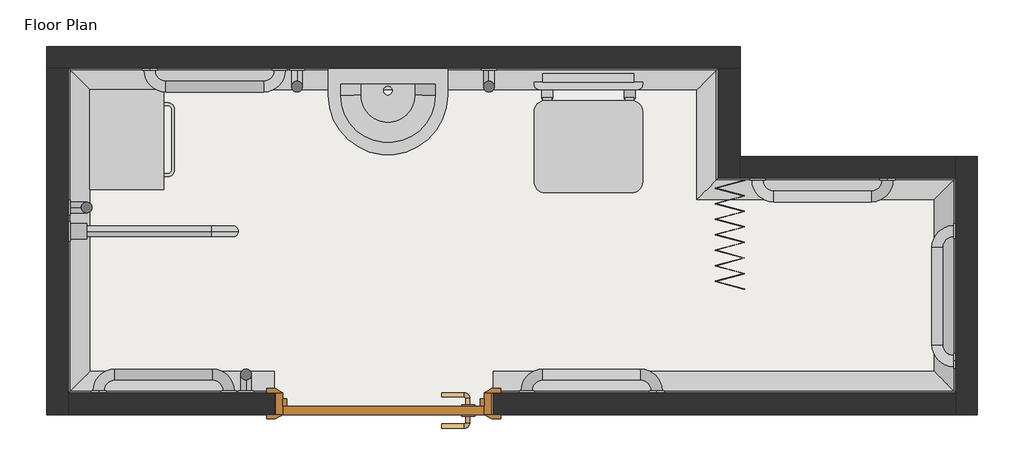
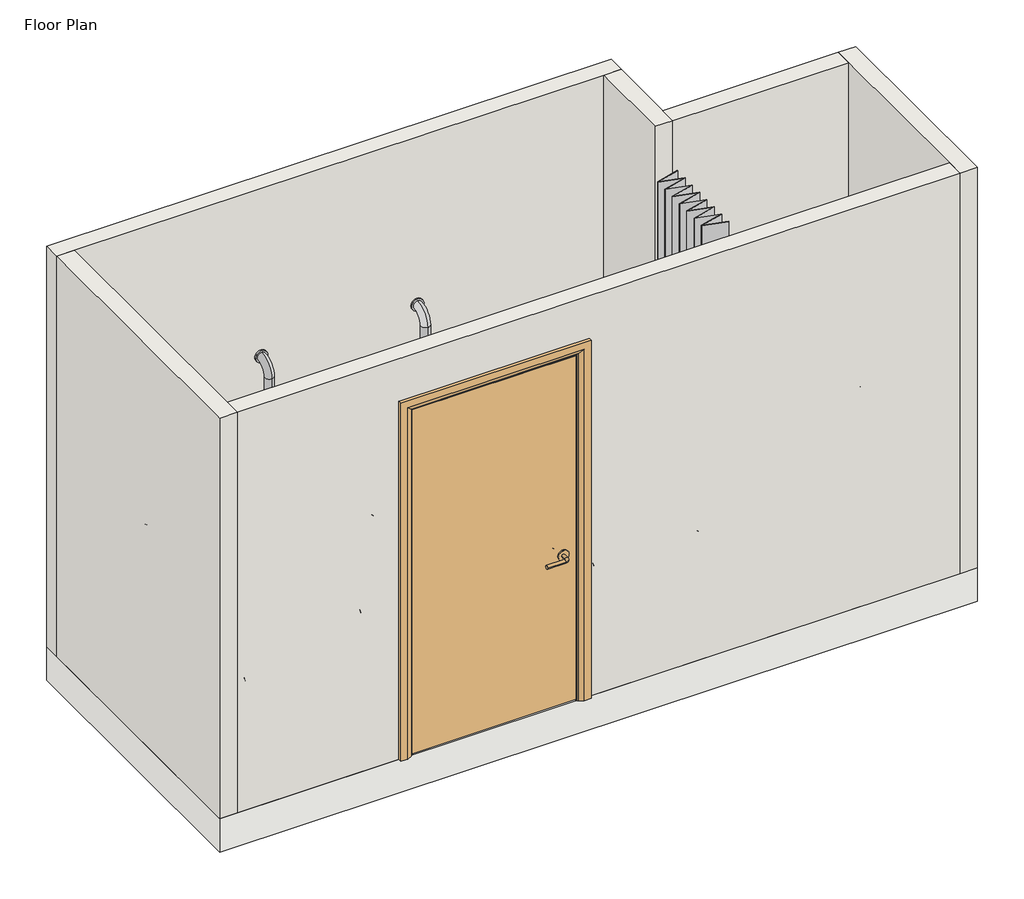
# One storey, incomplete: 17 proxies, 6 walls, 2 furniture elements, 1 door, 1 flow terminal, 1 slab.
"""IFC4 building model written with IfcOpenShell, lengths in millimetres."""

from ifc_helpers import new_model, si_unit, frame, origin, place, context, project, spatial, polyline, circle_curve, ellipse_curve, outline, extrude, faceted_brep, transform, mapped, element, save
from ifc_brep_helpers import plane_surface, revolved_surface, advanced_brep
from components import generic_models_2748bf89, type_1_021b8e3e, type_1_3e4eb001, type_1_f4c963d5, type_1_f76a5bbc, type_1_f275d547, door_1010x2110mm_f9eb5fde, flow_terminal_9bf15598, furniture_af9008cf, furniture_56c737e7

model = new_model("IFC4")

# Units and contexts
model_context = context("Model", 3, world=origin())
ifc_project = project(units=[si_unit("LENGTHUNIT", "METRE", prefix="MILLI")], contexts=[model_context])

# Site, building, storey
site = spatial("IfcSite", under=ifc_project)
building = spatial("IfcBuilding", under=site)
storey = spatial("IfcBuildingStorey", under=building, Name="Floor Plan", Elevation=0.0)

# Proxies
placement = place(None, origin())
element("IfcBuildingElementProxy", 1, Name="Wall Sweeps", at=placement, inside=storey, context=model_context, shape_type="AdvancedBrep", body=[
    advanced_brep(
    [(-495.0, 5415.0, 0.0), (-395.0, 5315.0, 0.0), (-395.0, 5315.0, 10.0), (-485.0, 5405.0, 100.0), (-495.0, 5415.0, 100.0), (2505.0, 5415.0, 0.0), (2505.0, 5415.0, 100.0), (2495.0, 5405.0, 100.0), (2405.0, 5315.0, 10.0), (2405.0, 5315.0, 0.0)],
    [
        (0, 1),
        (1, 2),
        (2, 3, ellipse_curve(frame((-395.0, 5315.0, 100.0), z_axis=(0.7071067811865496, 0.7071067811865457, 0.0), x_axis=(0.7071067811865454, -0.7071067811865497, 0.0)), 127.2792206, 90.0)),
        (3, 4),
        (4, 0),
        (5, 6),
        (6, 7),
        (7, 8, ellipse_curve(frame((2405.0, 5315.0, 100.0), z_axis=(-0.7071067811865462, 0.7071067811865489, 0.0), x_axis=(0.7071067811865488, 0.7071067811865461, 0.0)), 127.2792206, 90.0)),
        (8, 9),
        (9, 5),
        (0, 5),
        (9, 1),
        (8, 2),
        (7, 3),
        (6, 4),
    ],
    [
        plane_surface(frame((-495.0, 5415.0, 304.8), z_axis=(-0.7071067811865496, -0.7071067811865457, 0.0), x_axis=(0.7071067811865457, -0.7071067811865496, 0.0))),
        plane_surface(frame((2505.0, 5415.0, 304.8), z_axis=(0.7071067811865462, -0.7071067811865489, 0.0), x_axis=(-0.7071067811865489, -0.7071067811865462, 0.0))),
        plane_surface(frame((-495.0, 5415.0, 0.0), z_axis=(0.0, 0.0, -1.0), x_axis=(1.0, 0.0, 0.0))),
        plane_surface(frame((-395.0, 5315.0, 0.0), z_axis=(0.0, -1.0, 0.0), x_axis=(1.0, 0.0, 0.0))),
        revolved_surface(polyline([(2495.0, 5225.0, 100.0), (-485.0, 5225.0, 100.0)]), (-495.0, 5315.0, 100.0), (1.0, 0.0, 0.0)),
        plane_surface(frame((-485.0, 5405.0, 100.0), z_axis=(0.0, 0.0, 1.0), x_axis=(1.0, 0.0, 0.0))),
        plane_surface(frame((-495.0, 5415.0, 100.0), z_axis=(0.0, 1.0, 0.0), x_axis=(1.0, 0.0, 0.0))),
    ],
    [
        (0, [[1, 2, 3, 4, 5]]),
        (1, [[6, 7, 8, 9, 10]]),
        (2, [[-1, 11, -10, 12]]),
        (3, [[-2, -12, -9, 13]]),
        (4, [[-3, -13, -8, 14]]),
        (5, [[-4, -14, -7, 15]]),
        (6, [[-5, -15, -6, -11]]),
    ],
),
])
element("IfcBuildingElementProxy", 2, Name="Wall Sweeps", at=placement, inside=storey, context=model_context, shape_type="AdvancedBrep", body=[
    advanced_brep(
    [(-495.0, 5415.0, 0.0), (-495.0, 5415.0, 100.0), (-485.0, 5405.0, 100.0), (-395.0, 5315.0, 10.0), (-395.0, 5315.0, 0.0), (-495.0, 3915.0, 0.0), (-395.0, 4015.0, 0.0), (-395.0, 4015.0, 10.0), (-485.0, 3925.0, 100.0), (-495.0, 3915.0, 100.0)],
    [
        (0, 1),
        (1, 2),
        (2, 3, ellipse_curve(frame((-395.0, 5315.0, 100.0), z_axis=(-0.7071067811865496, -0.7071067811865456, 0.0), x_axis=(0.7071067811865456, -0.7071067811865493, 0.0)), 127.2792206, 90.0)),
        (3, 4),
        (4, 0),
        (5, 6),
        (6, 7),
        (7, 8, ellipse_curve(frame((-395.0, 4015.0, 100.0), z_axis=(-0.707106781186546, 0.7071067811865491, 0.0), x_axis=(-0.7071067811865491, -0.7071067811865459, 0.0)), 127.2792206, 90.0)),
        (8, 9),
        (9, 5),
        (0, 5),
        (9, 1),
        (8, 2),
        (7, 3),
        (6, 4),
    ],
    [
        plane_surface(frame((-495.0, 5415.0, -304.8), z_axis=(0.7071067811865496, 0.7071067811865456, 0.0), x_axis=(0.7071067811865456, -0.7071067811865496, 0.0))),
        plane_surface(frame((-495.0, 3915.0, -304.8), z_axis=(0.707106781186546, -0.7071067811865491, 0.0), x_axis=(0.7071067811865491, 0.707106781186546, 0.0))),
        plane_surface(frame((-495.0, 5415.0, 0.0), z_axis=(-1.0, 0.0, 0.0), x_axis=(0.0, -1.0, 0.0))),
        plane_surface(frame((-495.0, 5415.0, 100.0), z_axis=(0.0, 0.0, 1.0), x_axis=(0.0, -1.0, 0.0))),
        revolved_surface(polyline([(-305.0, 3925.0, 100.0), (-305.0, 5405.0, 100.0)]), (-395.0, 5415.0, 100.0), (0.0, -1.0, 0.0)),
        plane_surface(frame((-395.0, 5315.0, 10.0), z_axis=(1.0, 0.0, 0.0), x_axis=(0.0, -1.0, 0.0))),
        plane_surface(frame((-395.0, 5315.0, 0.0), z_axis=(0.0, 0.0, -1.0), x_axis=(0.0, -1.0, 0.0))),
    ],
    [
        (0, [[1, 2, 3, 4, 5]]),
        (1, [[6, 7, 8, 9, 10]]),
        (2, [[-1, 11, -10, 12]]),
        (3, [[-2, -12, -9, 13]]),
        (4, [[-3, -13, -8, 14]]),
        (5, [[-4, -14, -7, 15]]),
        (6, [[-5, -15, -6, -11]]),
    ],
),
])
element("IfcBuildingElementProxy", 3, Name="Wall Sweeps", at=placement, inside=storey, context=model_context, shape_type="AdvancedBrep", body=[
    advanced_brep(
    [(1465.0, 3915.0, 0.0), (1465.0, 3915.0, 100.0), (1465.0, 3925.0, 100.0), (1465.0, 4015.0, 10.0), (1465.0, 4015.0, 0.0), (3600.0, 3915.0, 0.0), (3500.0, 4015.0, 0.0), (3500.0, 4015.0, 10.0), (3590.0, 3925.0, 100.0), (3600.0, 3915.0, 100.0)],
    [
        (0, 1),
        (1, 2),
        (2, 3, circle_curve(frame((1465.0, 4015.0, 100.0), z_axis=(1.0, 0.0, 0.0), x_axis=(0.0, 1.0, 0.0)), 90.0)),
        (3, 4),
        (4, 0),
        (5, 6),
        (6, 7),
        (7, 8, ellipse_curve(frame((3500.0, 4015.0, 100.0), z_axis=(-0.7071067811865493, -0.7071067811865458, 0.0), x_axis=(0.7071067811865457, -0.7071067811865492, 0.0)), 127.2792206, 90.0)),
        (8, 9),
        (9, 5),
        (0, 5),
        (9, 1),
        (8, 2),
        (7, 3),
        (6, 4),
    ],
    [
        plane_surface(frame((1465.0, 3915.0, -100.4987562), z_axis=(-1.0, 0.0, 0.0), x_axis=(0.0, 1.0, 0.0))),
        plane_surface(frame((3600.0, 3915.0, -304.8), z_axis=(0.7071067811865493, 0.7071067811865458, 0.0), x_axis=(-0.7071067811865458, 0.7071067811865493, 0.0))),
        plane_surface(frame((1465.0, 3915.0, 0.0), z_axis=(0.0, -1.0, 0.0), x_axis=(1.0, 0.0, 0.0))),
        plane_surface(frame((1465.0, 3915.0, 100.0), z_axis=(0.0, 0.0, 1.0), x_axis=(1.0, 0.0, 0.0))),
        revolved_surface(polyline([(3590.0, 4105.0, 100.0), (1465.0, 4105.0, 100.0)]), (1465.0, 4015.0, 100.0), (1.0, 0.0, 0.0)),
        plane_surface(frame((1465.0, 4015.0, 10.0), z_axis=(0.0, 1.0, 0.0), x_axis=(1.0, 0.0, 0.0))),
        plane_surface(frame((1465.0, 4015.0, 0.0), z_axis=(0.0, 0.0, -1.0), x_axis=(1.0, 0.0, 0.0))),
    ],
    [
        (0, [[1, 2, 3, 4, 5]]),
        (1, [[6, 7, 8, 9, 10]]),
        (2, [[-1, 11, -10, 12]]),
        (3, [[-2, -12, -9, 13]]),
        (4, [[-3, -13, -8, 14]]),
        (5, [[-4, -14, -7, 15]]),
        (6, [[-5, -15, -6, -11]]),
    ],
),
    advanced_brep(
    [(-495.0, 3915.0, 0.0), (-495.0, 3915.0, 100.0), (-485.0, 3925.0, 100.0), (-395.0, 4015.0, 10.0), (-395.0, 4015.0, 0.0), (455.0, 3915.0, 0.0), (455.0, 4015.0, 0.0), (455.0, 4015.0, 10.0), (455.0, 3925.0, 100.0), (455.0, 3915.0, 100.0)],
    [
        (0, 1),
        (1, 2),
        (2, 3, ellipse_curve(frame((-395.0, 4015.0, 100.0), z_axis=(0.7071067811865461, -0.7071067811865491, 0.0), x_axis=(0.7071067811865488, 0.7071067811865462, 0.0)), 127.2792206, 90.0)),
        (3, 4),
        (4, 0),
        (5, 6),
        (6, 7),
        (7, 8, circle_curve(frame((455.0, 4015.0, 100.0), z_axis=(-1.0, 0.0, 0.0), x_axis=(0.0, 1.0, 0.0)), 90.0)),
        (8, 9),
        (9, 5),
        (0, 5),
        (9, 1),
        (8, 2),
        (7, 3),
        (6, 4),
    ],
    [
        plane_surface(frame((-495.0, 3915.0, -304.8), z_axis=(-0.7071067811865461, 0.7071067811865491, 0.0), x_axis=(0.7071067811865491, 0.7071067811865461, 0.0))),
        plane_surface(frame((455.0, 3915.0, -100.4987562), z_axis=(1.0, 0.0, 0.0), x_axis=(0.0, 1.0, 0.0))),
        plane_surface(frame((-495.0, 3915.0, 0.0), z_axis=(0.0, -1.0, 0.0), x_axis=(1.0, 0.0, 0.0))),
        plane_surface(frame((-495.0, 3915.0, 100.0), z_axis=(0.0, 0.0, 1.0), x_axis=(1.0, 0.0, 0.0))),
        revolved_surface(polyline([(455.0, 4105.0, 100.0), (-485.0, 4105.0, 100.0)]), (-495.0, 4015.0, 100.0), (1.0, 0.0, 0.0)),
        plane_surface(frame((-395.0, 4015.0, 10.0), z_axis=(0.0, 1.0, 0.0), x_axis=(1.0, 0.0, 0.0))),
        plane_surface(frame((-395.0, 4015.0, 0.0), z_axis=(0.0, 0.0, -1.0), x_axis=(1.0, 0.0, 0.0))),
    ],
    [
        (0, [[1, 2, 3, 4, 5]]),
        (1, [[6, 7, 8, 9, 10]]),
        (2, [[-1, 11, -10, 12]]),
        (3, [[-2, -12, -9, 13]]),
        (4, [[-3, -13, -8, 14]]),
        (5, [[-4, -14, -7, 15]]),
        (6, [[-5, -15, -6, -11]]),
    ],
),
])
element("IfcBuildingElementProxy", 4, Name="Wall Sweeps", at=placement, inside=storey, context=model_context, shape_type="AdvancedBrep", body=[
    advanced_brep(
    [(2505.0, 5415.0, 0.0), (2405.0, 5315.0, 0.0), (2405.0, 5315.0, 10.0), (2495.0, 5405.0, 100.0), (2505.0, 5415.0, 100.0), (2505.0, 4907.5, 0.0), (2505.0, 4907.5, 100.0), (2495.0, 4897.5, 100.0), (2405.0, 4807.5, 10.0), (2405.0, 4807.5, 0.0)],
    [
        (0, 1),
        (1, 2),
        (2, 3, ellipse_curve(frame((2405.0, 5315.0, 100.0), z_axis=(0.7071067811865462, -0.7071067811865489, 0.0), x_axis=(-0.7071067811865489, -0.707106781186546, 0.0)), 127.2792206, 90.0)),
        (3, 4),
        (4, 0),
        (5, 6),
        (6, 7),
        (7, 8, ellipse_curve(frame((2405.0, 4807.5, 100.0), z_axis=(-0.7071067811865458, 0.7071067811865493, 0.0), x_axis=(-0.7071067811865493, -0.7071067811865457, 0.0)), 127.2792206, 90.0)),
        (8, 9),
        (9, 5),
        (4, 6),
        (5, 0),
        (3, 7),
        (2, 8),
        (1, 9),
    ],
    [
        plane_surface(frame((2505.0, 5415.0, 304.8), z_axis=(-0.7071067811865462, 0.7071067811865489, 0.0), x_axis=(-0.7071067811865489, -0.7071067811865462, 0.0))),
        plane_surface(frame((2505.0, 4907.5, -304.8), z_axis=(0.7071067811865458, -0.7071067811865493, 0.0), x_axis=(0.7071067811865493, 0.7071067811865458, 0.0))),
        plane_surface(frame((2505.0, 5415.0, 100.0), z_axis=(1.0, 0.0, 0.0), x_axis=(0.0, -1.0, 0.0))),
        plane_surface(frame((2495.0, 5405.0, 100.0), z_axis=(0.0, 0.0, 1.0), x_axis=(0.0, -1.0, 0.0))),
        revolved_surface(polyline([(2315.0, 4717.5000000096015, 100.0), (2315.0, 5405.0, 100.0)]), (2405.0, 5415.0, 100.0), (0.0, -1.0, 0.0)),
        plane_surface(frame((2405.0, 5315.0, 0.0), z_axis=(-1.0, 0.0, 0.0), x_axis=(0.0, -1.0, 0.0))),
        plane_surface(frame((2505.0, 5415.0, 0.0), z_axis=(0.0, 0.0, -1.0), x_axis=(0.0, -1.0, 0.0))),
    ],
    [
        (0, [[1, 2, 3, 4, 5]]),
        (1, [[6, 7, 8, 9, 10]]),
        (2, [[-5, 11, -6, 12]]),
        (3, [[-4, 13, -7, -11]]),
        (4, [[-3, 14, -8, -13]]),
        (5, [[-2, 15, -9, -14]]),
        (6, [[-1, -12, -10, -15]]),
    ],
),
])
element("IfcBuildingElementProxy", 5, Name="Wall Sweeps", at=placement, inside=storey, context=model_context, shape_type="AdvancedBrep", body=[
    advanced_brep(
    [(3600.0, 3915.0, 0.0), (3600.0, 3915.0, 100.0), (3590.0, 3925.0, 100.0), (3500.0, 4015.0, 10.0), (3500.0, 4015.0, 0.0), (3600.0, 4907.5, 0.0), (3500.0, 4807.5, 0.0), (3500.0, 4807.5, 10.0), (3590.0, 4897.5, 100.0), (3600.0, 4907.5, 100.0)],
    [
        (0, 1),
        (1, 2),
        (2, 3, ellipse_curve(frame((3500.0, 4015.0, 100.0), z_axis=(0.7071067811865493, 0.7071067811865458, 0.0), x_axis=(-0.7071067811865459, 0.7071067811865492, 0.0)), 127.2792206, 90.0)),
        (3, 4),
        (4, 0),
        (5, 6),
        (6, 7),
        (7, 8, ellipse_curve(frame((3500.0, 4807.5, 100.0), z_axis=(0.7071067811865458, -0.7071067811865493, 0.0), x_axis=(0.7071067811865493, 0.7071067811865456, 0.0)), 127.2792206, 90.0)),
        (8, 9),
        (9, 5),
        (4, 6),
        (5, 0),
        (3, 7),
        (2, 8),
        (1, 9),
    ],
    [
        plane_surface(frame((3600.0, 3915.0, -304.8), z_axis=(-0.7071067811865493, -0.7071067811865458, 0.0), x_axis=(-0.7071067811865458, 0.7071067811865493, 0.0))),
        plane_surface(frame((3600.0, 4907.5, -304.8), z_axis=(-0.7071067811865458, 0.7071067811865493, 0.0), x_axis=(-0.7071067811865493, -0.7071067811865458, 0.0))),
        plane_surface(frame((3500.0, 4015.0, 0.0), z_axis=(0.0, 0.0, -1.0), x_axis=(0.0, 1.0, 0.0))),
        plane_surface(frame((3500.0, 4015.0, 10.0), z_axis=(-1.0, 0.0, 0.0), x_axis=(0.0, 1.0, 0.0))),
        revolved_surface(polyline([(3410.0, 4897.5, 100.0), (3410.0, 3925.0, 100.0)]), (3500.0, 3915.0, 100.0), (0.0, 1.0, 0.0)),
        plane_surface(frame((3600.0, 3915.0, 100.0), z_axis=(0.0, 0.0, 1.0), x_axis=(0.0, 1.0, 0.0))),
        plane_surface(frame((3600.0, 3915.0, 0.0), z_axis=(1.0, 0.0, 0.0), x_axis=(0.0, 1.0, 0.0))),
    ],
    [
        (0, [[1, 2, 3, 4, 5]]),
        (1, [[6, 7, 8, 9, 10]]),
        (2, [[-5, 11, -6, 12]]),
        (3, [[-4, 13, -7, -11]]),
        (4, [[-3, 14, -8, -13]]),
        (5, [[-2, 15, -9, -14]]),
        (6, [[-1, -12, -10, -15]]),
    ],
),
])
element("IfcBuildingElementProxy", 6, Name="Wall Sweeps", at=placement, inside=storey, context=model_context, shape_type="AdvancedBrep", body=[
    advanced_brep(
    [(2505.0, 4907.5, 0.0), (2405.0, 4807.5, 0.0), (2405.0, 4807.5, 10.0), (2495.0, 4897.5, 100.0), (2505.0, 4907.5, 100.0), (3600.0, 4907.5, 0.0), (3600.0, 4907.5, 100.0), (3590.0, 4897.5, 100.0), (3500.0, 4807.5, 10.0), (3500.0, 4807.5, 0.0), (2605.0, 4907.5, 0.0)],
    [
        (0, 1),
        (1, 2),
        (2, 3, ellipse_curve(frame((2405.0, 4807.5, 100.0), z_axis=(0.7071067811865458, -0.7071067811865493, 0.0), x_axis=(0.7071067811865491, 0.7071067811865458, 0.0)), 127.2792206, 90.0)),
        (3, 4),
        (4, 0),
        (5, 6),
        (6, 7),
        (7, 8, ellipse_curve(frame((3500.0, 4807.5, 100.0), z_axis=(-0.7071067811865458, 0.7071067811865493, 0.0), x_axis=(0.7071067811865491, 0.7071067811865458, 0.0)), 127.2792206, 90.0)),
        (8, 9),
        (9, 5),
        (4, 6),
        (5, 10),
        (10, 0),
        (3, 7),
        (2, 8),
        (1, 9),
    ],
    [
        plane_surface(frame((2505.0, 4907.5, -304.8), z_axis=(-0.7071067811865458, 0.7071067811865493, 0.0), x_axis=(0.7071067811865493, 0.7071067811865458, 0.0))),
        plane_surface(frame((3600.0, 4907.5, 304.8), z_axis=(0.7071067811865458, -0.7071067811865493, 0.0), x_axis=(-0.7071067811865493, -0.7071067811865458, 0.0))),
        plane_surface(frame((2505.0, 4907.5, 100.0), z_axis=(0.0, 1.0, 0.0), x_axis=(1.0, 0.0, 0.0))),
        plane_surface(frame((2495.0, 4897.5, 100.0), z_axis=(0.0, 0.0, 1.0), x_axis=(1.0, 0.0, 0.0))),
        revolved_surface(polyline([(3590.0, 4717.5, 100.0), (2315.000000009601, 4717.5, 100.0)]), (2505.0, 4807.5, 100.0), (1.0, 0.0, 0.0)),
        plane_surface(frame((2405.0, 4807.5, 0.0), z_axis=(0.0, -1.0, 0.0), x_axis=(1.0, 0.0, 0.0))),
        plane_surface(frame((2505.0, 4907.5, 0.0), z_axis=(0.0, 0.0, -1.0), x_axis=(1.0, 0.0, 0.0))),
    ],
    [
        (0, [[1, 2, 3, 4, 5]]),
        (1, [[6, 7, 8, 9, 10]]),
        (2, [[-5, 11, -6, 12, 13]]),
        (3, [[-4, 14, -7, -11]]),
        (4, [[-3, 15, -8, -14]]),
        (5, [[-2, 16, -9, -15]]),
        (6, [[-1, -13, -12, -10, -16]]),
    ],
),
])
generic_models_shape = generic_models_2748bf89(model_context)
element("IfcBuildingElementProxy", 7, Name="BIMHealth-Seat_Shower-LOD2A-v1 : BIMHealth-Seat_Shower-LOD2A-v1", ObjectType="BIMHealth-Seat_Shower-LOD2A-v1 : BIMHealth-Seat_Shower-LOD2A-v1", at=placement, inside=storey, context=model_context, shape_type="MappedRepresentation", body=[
    mapped(generic_models_shape, transform((1655.0, 5390.0, 0.0), x_axis=(1.0, 0.0, 0.0), y_axis=(0.0, 1.0, 0.0), z_axis=(0.0, 0.0, 1.0))),
])
type_1_shape = type_1_021b8e3e(model_context)
element("IfcBuildingElementProxy", 8, Name="BIMHealth-Grab_Rail_Horizontal-LOD2A-v1 : Type 1", ObjectType="BIMHealth-Grab_Rail_Horizontal-LOD2A-v1 : Type 1", at=placement, inside=storey, context=model_context, shape_type="MappedRepresentation", body=[
    mapped(type_1_shape, transform((-179.5081461, 3865.0, 0.0), x_axis=(1.0, 0.0, 0.0), y_axis=(0.0, 1.0, 0.0), z_axis=(0.0, 0.0, 1.0))),
])
element("IfcBuildingElementProxy", 9, Name="BIMHealth-Grab_Rail_Horizontal-LOD2A-v1 : Type 1", ObjectType="BIMHealth-Grab_Rail_Horizontal-LOD2A-v1 : Type 1", at=placement, inside=storey, context=model_context, shape_type="MappedRepresentation", body=[
    mapped(type_1_shape, transform((3650.0, 4237.5, 0.0), x_axis=(0.0, 1.0, 0.0), y_axis=(-1.0, 0.0, 0.0), z_axis=(0.0, 0.0, 1.0))),
])
element("IfcBuildingElementProxy", 10, Name="BIMHealth-Grab_Rail_Horizontal-LOD2A-v1 : Type 1", ObjectType="BIMHealth-Grab_Rail_Horizontal-LOD2A-v1 : Type 1", at=placement, inside=storey, context=model_context, shape_type="MappedRepresentation", body=[
    mapped(type_1_shape, transform((3110.0, 4957.5, 0.0), x_axis=(-1.0, 0.0, 0.0), y_axis=(0.0, -1.0, 0.0), z_axis=(0.0, 0.0, 1.0))),
])
type_1_2_shape = type_1_3e4eb001(model_context)
element("IfcBuildingElementProxy", 11, Name="BIMHealth-Grab_Rail_Vertical-LOD2A-v1 : Type 1", ObjectType="BIMHealth-Grab_Rail_Vertical-LOD2A-v1 : Type 1", at=placement, inside=storey, context=model_context, shape_type="MappedRepresentation", body=[
    mapped(type_1_2_shape, transform((686.0, 5465.0, 0.0), x_axis=(-1.0, 0.0, 0.0), y_axis=(0.0, -1.0, 0.0), z_axis=(0.0, 0.0, 1.0))),
])
type_1_3_shape = type_1_f4c963d5(model_context)
element("IfcBuildingElementProxy", 12, Name="BIMHealth-Grab_Rail_Vertical-LOD2A-v1 : Type 1", ObjectType="BIMHealth-Grab_Rail_Vertical-LOD2A-v1 : Type 1", at=placement, inside=storey, context=model_context, shape_type="MappedRepresentation", body=[
    mapped(type_1_3_shape, transform((1321.0, 5465.0, 0.0), x_axis=(1.0, 0.0, 0.0), y_axis=(0.0, 1.0, 0.0), z_axis=(0.0, 0.0, 1.0))),
])
element("IfcBuildingElementProxy", 13, Name="BIMHealth-Grab_Rail_Vertical-LOD2A-v1 : Type 1", ObjectType="BIMHealth-Grab_Rail_Vertical-LOD2A-v1 : Type 1", at=placement, inside=storey, context=model_context, shape_type="MappedRepresentation", body=[
    mapped(type_1_3_shape, transform((-545.0, 4646.4553371, 0.0), x_axis=(0.0, 1.0, 0.0), y_axis=(-1.0, 0.0, 0.0), z_axis=(0.0, 0.0, 1.0))),
])
element("IfcBuildingElementProxy", 14, Name="BIMHealth-Grab_Rail_Vertical-LOD2A-v1 : Type 1", ObjectType="BIMHealth-Grab_Rail_Vertical-LOD2A-v1 : Type 1", at=placement, inside=storey, context=model_context, shape_type="MappedRepresentation", body=[
    mapped(type_1_3_shape, transform((450.4918539, 3865.0, 0.0), x_axis=(-1.0, 0.0, 0.0), y_axis=(0.0, -1.0, 0.0), z_axis=(0.0, 0.0, 1.0))),
])
type_1_4_shape = type_1_f76a5bbc(model_context)
element("IfcBuildingElementProxy", 15, Name="BIMHealth-Grab_Rail_Horizontal-LOD2A-v1 : Type 1", ObjectType="BIMHealth-Grab_Rail_Horizontal-LOD2A-v1 : Type 1", at=placement, inside=storey, context=model_context, shape_type="MappedRepresentation", body=[
    mapped(type_1_4_shape, transform((56.0, 5465.0, 0.0), x_axis=(1.0, 0.0, 0.0), y_axis=(0.0, 1.0, 0.0), z_axis=(0.0, 0.0, 1.0))),
])
element("IfcBuildingElementProxy", 16, Name="BIMHealth-Grab_Rail_Horizontal-LOD2A-v1 : Type 1", ObjectType="BIMHealth-Grab_Rail_Horizontal-LOD2A-v1 : Type 1", at=placement, inside=storey, context=model_context, shape_type="MappedRepresentation", body=[
    mapped(type_1_4_shape, transform((2045.0, 3865.0, 0.0), x_axis=(-1.0, 0.0, 0.0), y_axis=(0.0, -1.0, 0.0), z_axis=(0.0, 0.0, 1.0))),
])
type_1_5_shape = type_1_f275d547(model_context)
element("IfcBuildingElementProxy", 17, Name="BIMHealth-Grab_Rail_Drop_Down-LOD2A-v1 : Type 1", ObjectType="BIMHealth-Grab_Rail_Drop_Down-LOD2A-v1 : Type 1", at=placement, inside=storey, context=model_context, shape_type="MappedRepresentation", body=[
    mapped(type_1_5_shape, transform((-545.0, 4536.4553371, 0.0), x_axis=(0.0, 1.0, 0.0), y_axis=(-1.0, 0.0, 0.0), z_axis=(0.0, 0.0, 1.0))),
])

# Door
door_1010x2110mm_shape = door_1010x2110mm_f9eb5fde(model_context)
element("IfcDoor", 18, ObjectType="BIMHealth-Single_Door-LOD2A-v1 : 1010x2110mm", at=placement, inside=storey, context=model_context, shape_type="MappedRepresentation", body=[
    mapped(door_1010x2110mm_shape, transform((960.0, 3865.0, 0.0), x_axis=(-1.0, 0.0, 0.0), y_axis=(0.0, -1.0, 0.0), z_axis=(0.0, 0.0, 1.0))),
])

# Flow terminal
flow_terminal_shape = flow_terminal_9bf15598(model_context)
element("IfcFlowTerminal", 19, ObjectType="BIMHealth-Wash_basin_Doc_M-LOD2A-v1 : BIMHealth-Wash_basin_Doc_M-LOD2A-v1", at=placement, inside=storey, context=model_context, shape_type="MappedRepresentation", body=[
    mapped(flow_terminal_shape, transform((1255.0, 5415.0, 500.0), x_axis=(-1.0000000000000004, 0.0, 0.0), y_axis=(0.0, -1.0000000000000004, 0.0), z_axis=(0.0, 0.0, 1.0))),
])

# Furniture
furniture_shape = furniture_af9008cf(model_context)
element("IfcFurniture", 20, ObjectType="BIMHealth-Bin_Clinical_Foot_Operated-LOD2A-v1 : BIMHealth-Bin_Clinical_Foot_Operated-LOD2A-v1", at=placement, inside=storey, context=model_context, shape_type="MappedRepresentation", body=[
    mapped(furniture_shape, transform((-385.0, 5305.0, 0.0), x_axis=(0.0, -1.0000000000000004, 0.0), y_axis=(1.0000000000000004, 0.0, 0.0), z_axis=(0.0, 0.0, 1.0))),
])
furniture_2_shape = furniture_56c737e7(model_context)
element("IfcFurniture", 21, ObjectType="BHMS-Bed Curtains : Bed Curtains", at=placement, inside=storey, context=model_context, shape_type="MappedRepresentation", body=[
    mapped(furniture_2_shape, transform((2565.0, 4647.5, 0.0), x_axis=(0.0, 1.0, 0.0), y_axis=(-1.0, 0.0, 0.0), z_axis=(0.0, 0.0, 1.0))),
])

# Slab
element("IfcSlab", 22, ObjectType="BIMHealth - Generic Floor", at=placement, inside=storey, context=model_context, shape_type="SweptSolid", body=[
    extrude(outline(polyline([(2605.0, 5515.0), (2605.0, 5007.5), (3700.0, 5007.5), (3700.0, 3815.0), (-595.0, 3815.0), (-595.0, 5515.0), (2605.0, 5515.0)])), frame((0.0, 0.0, -200.0), z_axis=(0.0, 0.0, 1.0), x_axis=(1.0, 0.0, 0.0)), (0.0, 0.0, 1.0), 200.0),
])

# Walls
element("IfcWall", 23, ObjectType="BIMHealth - Generic Wall", at=placement, inside=storey, context=model_context, shape_type="Brep", body=[
    faceted_brep([(3700.0, 3815.0, 0.0), (3700.0, 5007.5, 0.0), (3700.0, 5007.5, 2400.0), (3700.0, 3815.0, 2400.0), (3600.0, 3815.0, 0.0), (3600.0, 3815.0, 2400.0), (3600.0, 3915.0, 2400.0), (3600.0, 4907.5, 2400.0), (3600.0, 5007.5, 2400.0), (3600.0, 5007.5, 0.0), (3600.0, 4907.5, 0.0), (3600.0, 3915.0, 0.0)], [[[0, 1, 2, 3]], [[4, 5, 6, 7, 8, 9, 10, 11]], [[1, 0, 4, 11, 10, 9]], [[3, 2, 8, 7, 6, 5]], [[2, 1, 9, 8]], [[0, 3, 5, 4]]]),
])
element("IfcWall", 24, ObjectType="BIMHealth - Generic Wall", at=placement, inside=storey, context=model_context, shape_type="Brep", body=[
    faceted_brep([(-595.0, 5415.0, 0.0), (-495.0, 5415.0, 0.0), (2505.0, 5415.0, 0.0), (2605.0, 5415.0, 0.0), (2605.0, 5415.0, 2400.0), (2505.0, 5415.0, 2400.0), (-495.0, 5415.0, 2400.0), (-595.0, 5415.0, 2400.0), (-595.0, 5515.0, 0.0), (-595.0, 5515.0, 2400.0), (2605.0, 5515.0, 2400.0), (2605.0, 5515.0, 0.0)], [[[0, 1, 2, 3, 4, 5, 6, 7]], [[8, 9, 10, 11]], [[3, 2, 1, 0, 8, 11]], [[7, 6, 5, 4, 10, 9]], [[0, 7, 9, 8]], [[4, 3, 11, 10]]]),
])
element("IfcWall", 25, ObjectType="BIMHealth - Generic Wall", at=placement, inside=storey, context=model_context, shape_type="Brep", body=[
    faceted_brep([(-595.0, 5415.0, 0.0), (-595.0, 3815.0, 0.0), (-595.0, 3815.0, 2400.0), (-595.0, 5415.0, 2400.0), (-495.0, 5415.0, 0.0), (-495.0, 5415.0, 2400.0), (-495.0, 3915.0, 2400.0), (-495.0, 3815.0, 2400.0), (-495.0, 3815.0, 0.0), (-495.0, 3915.0, 0.0)], [[[0, 1, 2, 3]], [[4, 5, 6, 7, 8, 9]], [[1, 0, 4, 9, 8]], [[3, 2, 7, 6, 5]], [[0, 3, 5, 4]], [[2, 1, 8, 7]]]),
])
element("IfcWall", 26, ObjectType="BIMHealth - Generic Wall", at=placement, inside=storey, context=model_context, shape_type="Brep", body=[
    faceted_brep([(3600.0, 3815.0, 2400.0), (-495.0, 3815.0, 2400.0), (-495.0, 3815.0, 0.0), (455.0, 3815.0, 0.0), (455.0, 3815.0, 2110.0), (1465.0, 3815.0, 2110.0), (1465.0, 3815.0, 0.0), (3600.0, 3815.0, 0.0), (-495.0, 3915.0, 2400.0), (3600.0, 3915.0, 2400.0), (3600.0, 3915.0, 0.0), (1465.0, 3915.0, 0.0), (1465.0, 3915.0, 100.0), (1465.0, 3915.0, 2110.0), (455.0, 3915.0, 2110.0), (455.0, 3915.0, 100.0), (455.0, 3915.0, 0.0), (-495.0, 3915.0, 0.0)], [[[0, 1, 2, 3, 4, 5, 6, 7]], [[8, 9, 10, 11, 12, 13, 14, 15, 16, 17]], [[2, 17, 16, 3]], [[10, 7, 6, 11]], [[1, 0, 9, 8]], [[2, 1, 8, 17]], [[14, 4, 3, 16, 15]], [[4, 14, 13, 5]], [[5, 13, 12, 11, 6]], [[0, 7, 10, 9]]]),
])
element("IfcWall", 27, ObjectType="BIMHealth - Generic Wall", at=placement, inside=storey, context=model_context, shape_type="Brep", body=[
    faceted_brep([(2505.0, 5415.0, 0.0), (2505.0, 4907.5, 0.0), (2505.0, 4907.5, 100.0), (2505.0, 4907.5, 2400.0), (2505.0, 5415.0, 2400.0), (2505.0, 5415.0, 100.0), (2605.0, 4907.5, 0.0), (2605.0, 5007.5, 0.0), (2605.0, 5415.0, 0.0), (2605.0, 5415.0, 2400.0), (2605.0, 5007.5, 2400.0), (2605.0, 4907.5, 2400.0), (2605.0, 4907.5, 100.0)], [[[0, 1, 2, 3, 4, 5]], [[6, 7, 8, 9, 10, 11, 12]], [[1, 0, 8, 7, 6]], [[4, 3, 11, 10, 9]], [[4, 9, 8, 0, 5]], [[1, 6, 12, 11, 3, 2]]]),
])
element("IfcWall", 28, ObjectType="BIMHealth - Generic Wall", at=placement, inside=storey, context=model_context, shape_type="Brep", body=[
    faceted_brep([(2605.0, 4907.5, 0.0), (3600.0, 4907.5, 0.0), (3600.0, 4907.5, 100.0), (3600.0, 4907.5, 2400.0), (2605.0, 4907.5, 2400.0), (2605.0, 4907.5, 100.0), (3600.0, 5007.5, 0.0), (2605.0, 5007.5, 0.0), (2605.0, 5007.5, 2400.0), (3600.0, 5007.5, 2400.0)], [[[0, 1, 2, 3, 4, 5]], [[6, 7, 8, 9]], [[1, 0, 7, 6]], [[4, 3, 9, 8]], [[4, 8, 7, 0, 5]], [[1, 6, 9, 3, 2]]]),
])

save(model, "model.ifc")
